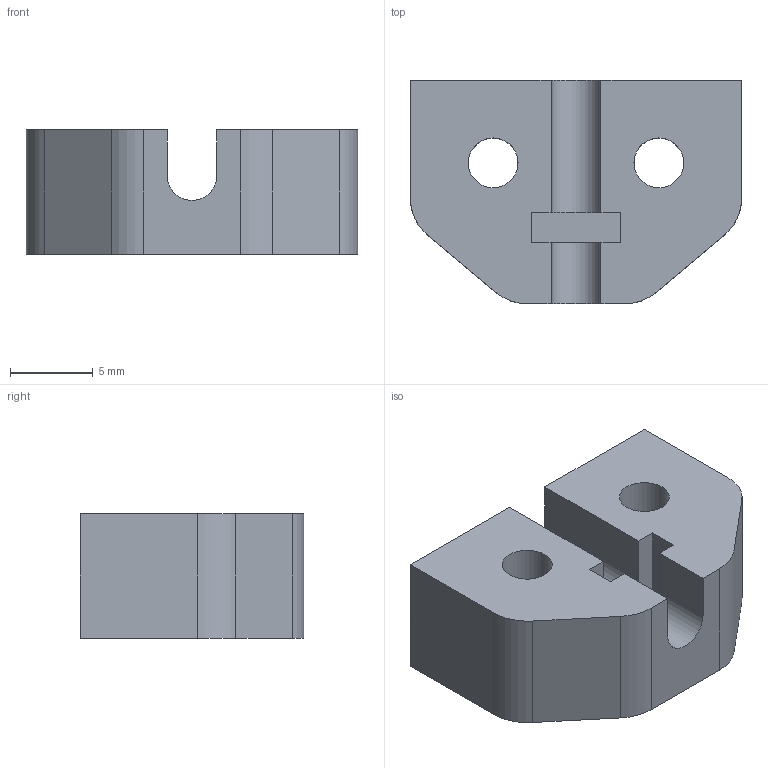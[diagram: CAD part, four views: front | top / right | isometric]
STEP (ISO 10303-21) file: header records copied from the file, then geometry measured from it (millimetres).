
FILE_DESCRIPTION(/* description */ ('CAx-IF Rec.Pracs.---Representation and Presentation of Product Manufacturing Information (PMI)---4.0---2014-10-13','CAx-IF Rec.Pracs.---3D Tessellated Geometry---0.4---2014-09-14','2;1'),/* implementation_level */ '2;1');
FILE_NAME(/* name */ 'qc1_p85_t_mount',/* time_stamp */ '2026-07-26T03:34:37+03:00',/* author */ (''),/* organization */ (''),/* preprocessor_version */ 'ST-DEVELOPER v19.4',/* originating_system */ 'SIEMENS PLM Software NX2306.1700',/* authorisation */ $);
FILE_SCHEMA (('AP242_MANAGED_MODEL_BASED_3D_ENGINEERING_MIM_LF { 1 0 10303 442 3 1 4 }'));
Length unit declared in the file: millimetre
Products named in the file (1): qc1_p85_t_mount
Bounding box: 20 x 13.5 x 7.5 mm (x, y, z)
Volume: 1495.7 mm3; surface area: 1158 mm2
Topology: 1 solids, 1 shells, 26 faces, 72 edges, 48 vertices
Faces by surface type: plane 18, cylinder 8
Full cylindrical faces by diameter (mm): 3.01 x2
Entity records: 852 total; most frequent: CARTESIAN_POINT 145, ORIENTED_EDGE 140, DIRECTION 140, EDGE_CURVE 70, LINE 54, VECTOR 54, VERTEX_POINT 48, AXIS2_PLACEMENT_3D 43
